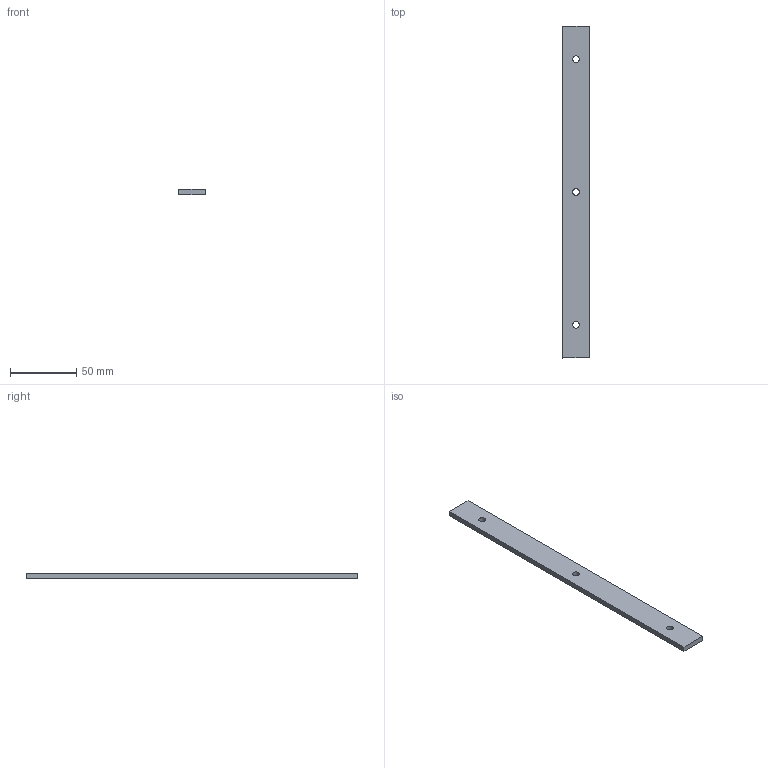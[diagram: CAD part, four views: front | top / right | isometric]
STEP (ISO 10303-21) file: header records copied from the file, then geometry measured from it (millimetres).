
FILE_DESCRIPTION (( 'STEP AP203' ), '1' );
FILE_NAME ('Cale_Plaque_Acier.STEP', '2026-06-24T07:29:48', ( '' ), ( '' ), 'SwSTEP 2.0', 'SolidWorks 2024', '' );
FILE_SCHEMA (( 'CONFIG_CONTROL_DESIGN' ));
Length unit declared in the file: millimetre
Products named in the file (1): Cale_Plaque_Acier
Bounding box: 20 x 250 x 4 mm (x, y, z)
Volume: 19764.4 mm3; surface area: 12230.7 mm2
Topology: 1 solids, 1 shells, 9 faces, 21 edges, 14 vertices
Faces by surface type: plane 6, cylinder 3
Full cylindrical faces by diameter (mm): 5 x3
Entity records: 333 total; most frequent: DIRECTION 44, CARTESIAN_POINT 42, ORIENTED_EDGE 36, EDGE_LOOP 18, EDGE_CURVE 18, AXIS2_PLACEMENT_3D 16, VERTEX_POINT 14, LINE 12
